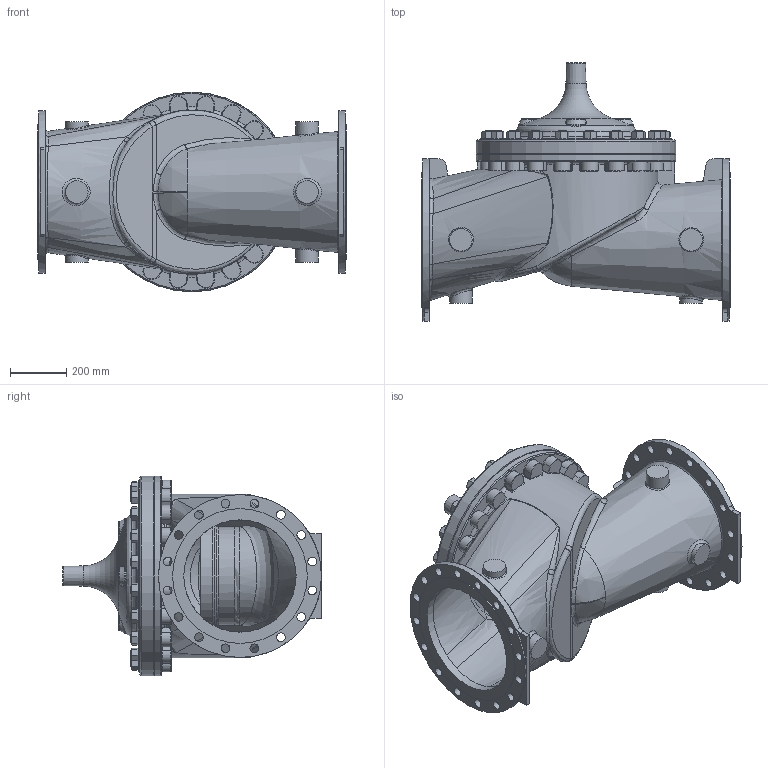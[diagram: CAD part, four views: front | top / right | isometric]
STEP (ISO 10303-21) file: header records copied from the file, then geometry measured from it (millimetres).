
FILE_DESCRIPTION(/* description */ (''),/* implementation_level */ '2;1');
FILE_NAME(/* name */ 'G:\Doc_Liberes\SymbolesCAD\Modeles_3D\FichierSTP\VanneDeBase\NGE400-16RF.stp',/* time_stamp */ '2023-08-17T11:30:45+02:00',/* author */ ('marc'),/* organization */ (''),/* preprocessor_version */ 'ST-DEVELOPER v18.1',/* originating_system */ 'Autodesk Inventor 2022',/* authorisation */ '');
FILE_SCHEMA (('AUTOMOTIVE_DESIGN { 1 0 10303 214 3 1 1 }'));
Products named in the file (1): nge400-16_Simplifier_1
Bounding box: 1100 x 921.65 x 711.2 mm (x, y, z)
Volume: 60338592.9 mm3; surface area: 5884076.4 mm2
Topology: 1 solids, 1 shells, 1610 faces, 4024 edges, 2468 vertices
Faces by surface type: cone 499, plane 442, cylinder 294, bspline 233, torus 137, sphere 5
Full cylindrical faces by diameter (mm): 28.575 x40, 31 x32, 32 x1, 57.15 x20, 70 x1, 80 x6, 319.435 x1, 336.5 x1, 378 x1, 381.5 x1, 381.508 x1, 400 x2, 480 x2, 580 x2, 685.37 x1, 687.7 x1, 710 x1, 711.2 x1
Entity records: 71536 total; most frequent: CARTESIAN_POINT 35797, ORIENTED_EDGE 8024, DIRECTION 7096, EDGE_CURVE 4012, AXIS2_PLACEMENT_3D 3211, VERTEX_POINT 2467, CIRCLE 1804, EDGE_LOOP 1778
